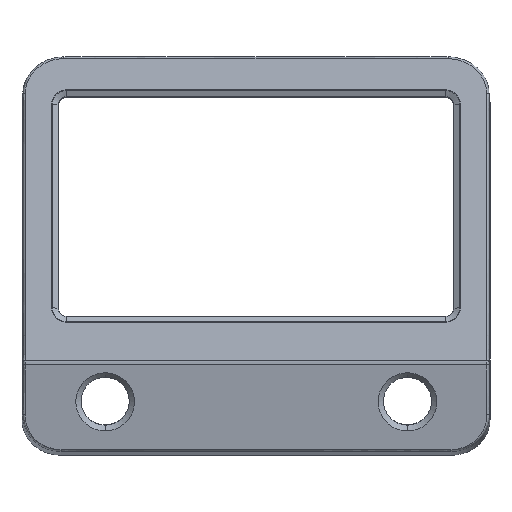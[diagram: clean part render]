
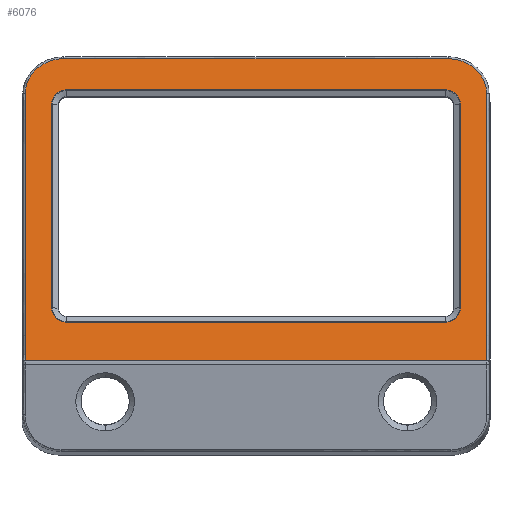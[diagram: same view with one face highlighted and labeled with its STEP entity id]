
A CAD part, front view. The second image highlights one B-rep face of the part: STEP entity #6076.
In plain terms, the highlighted planar face has unit normal (0, -0.985, 0.174).
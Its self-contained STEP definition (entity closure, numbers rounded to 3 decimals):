
#1405=CARTESIAN_POINT('',(-88.466,-83.319,
486.353));
#1511=DIRECTION('',(1.,0.,0.));
#1512=VECTOR('',#1511,176.931);
#1513=CARTESIAN_POINT('',(-88.466,-83.319,
486.353));
#1514=LINE('',#1513,#1512);
#1525=DIRECTION('',(0.,0.174,0.985));
#1526=VECTOR('',#1525,104.208);
#1527=CARTESIAN_POINT('',(-88.466,-83.319,
486.353));
#1528=LINE('',#1527,#1526);
#1529=CARTESIAN_POINT('',(-88.466,-65.224,
588.978));
#1530=CARTESIAN_POINT('',(-88.466,-65.079,
589.798));
#1531=CARTESIAN_POINT('',(-88.291,-64.788,
591.448));
#1532=CARTESIAN_POINT('',(-87.526,-64.364,
593.856));
#1533=CARTESIAN_POINT('',(-86.257,-63.963,
596.126));
#1534=CARTESIAN_POINT('',(-84.484,-63.602,
598.173));
#1535=CARTESIAN_POINT('',(-82.263,-63.296,
599.913));
#1536=CARTESIAN_POINT('',(-79.65,-63.062,
601.238));
#1537=CARTESIAN_POINT('',(-76.758,-62.916,
602.067));
#1538=CARTESIAN_POINT('',(-74.734,-62.882,
602.26));
#1539=CARTESIAN_POINT('',(-73.722,-62.882,
602.26));
#1541=DIRECTION('',(1.,0.,0.));
#1542=VECTOR('',#1541,147.444);
#1543=CARTESIAN_POINT('',(-73.722,-62.882,
602.26));
#1544=LINE('',#1543,#1542);
#1545=CARTESIAN_POINT('',(73.722,-62.882,602.26));
#1546=CARTESIAN_POINT('',(74.727,-62.882,602.26));
#1547=CARTESIAN_POINT('',(76.732,-62.915,602.07));
#1548=CARTESIAN_POINT('',(79.61,-63.059,601.253));
#1549=CARTESIAN_POINT('',(82.221,-63.291,599.939));
#1550=CARTESIAN_POINT('',(84.453,-63.597,598.203));
#1551=CARTESIAN_POINT('',(86.236,-63.958,596.156));
#1552=CARTESIAN_POINT('',(87.518,-64.36,593.878));
#1553=CARTESIAN_POINT('',(88.29,-64.786,591.46));
#1554=CARTESIAN_POINT('',(88.466,-65.079,589.799));
#1555=CARTESIAN_POINT('',(88.466,-65.224,588.978));
#1557=DIRECTION('',(0.,-0.174,-0.985));
#1558=VECTOR('',#1557,104.208);
#1559=CARTESIAN_POINT('',(88.466,-65.224,588.978));
#1560=LINE('',#1559,#1558);
#1561=CARTESIAN_POINT('',(-72.75,-65.962,584.793));
#1562=DIRECTION('',(0.,-0.985,0.174));
#1563=DIRECTION('',(0.,0.174,0.985));
#1564=AXIS2_PLACEMENT_3D('',#1561,#1562,#1563);
#1566=CARTESIAN_POINT('',(-72.75,-79.723,506.747));
#1567=DIRECTION('',(0.,-0.985,0.174));
#1568=DIRECTION('',(-1.,0.,0.));
#1569=AXIS2_PLACEMENT_3D('',#1566,#1567,#1568);
#1571=CARTESIAN_POINT('',(72.75,-79.723,506.747));
#1572=DIRECTION('',(0.,-0.985,0.174));
#1573=DIRECTION('',(0.,-0.174,-0.985));
#1574=AXIS2_PLACEMENT_3D('',#1571,#1572,#1573);
#1576=CARTESIAN_POINT('',(72.75,-65.962,584.793));
#1577=DIRECTION('',(0.,-0.985,0.174));
#1578=DIRECTION('',(1.,0.,0.));
#1579=AXIS2_PLACEMENT_3D('',#1576,#1577,#1578);
#1581=CARTESIAN_POINT('',(-88.466,-65.224,
588.978));
#1673=DIRECTION('',(1.,0.,0.));
#1674=VECTOR('',#1673,145.5);
#1675=CARTESIAN_POINT('',(-72.75,-64.982,
590.346));
#1676=LINE('',#1675,#1674);
#1696=DIRECTION('',(0.,-0.174,-0.985));
#1697=VECTOR('',#1696,79.25);
#1698=CARTESIAN_POINT('',(78.388,-65.962,584.793));
#1699=LINE('',#1698,#1697);
#1719=DIRECTION('',(-1.,0.,0.));
#1720=VECTOR('',#1719,145.5);
#1721=CARTESIAN_POINT('',(72.75,-80.702,501.194));
#1722=LINE('',#1721,#1720);
#1742=DIRECTION('',(0.,0.174,0.985));
#1743=VECTOR('',#1742,79.25);
#1744=CARTESIAN_POINT('',(-78.388,-79.723,
506.747));
#1745=LINE('',#1744,#1743);
#3405=VERTEX_POINT('',#1405);
#3406=VERTEX_POINT('',#1581);
#3425=CARTESIAN_POINT('',(88.466,-83.319,486.353));
#3426=VERTEX_POINT('',#3425);
#3427=VERTEX_POINT('',#1539);
#3428=CARTESIAN_POINT('',(73.722,-62.882,602.26));
#3429=VERTEX_POINT('',#3428);
#3430=VERTEX_POINT('',#1555);
#3431=CARTESIAN_POINT('',(-72.75,-64.982,
590.346));
#3432=CARTESIAN_POINT('',(72.75,-64.982,590.346));
#3433=VERTEX_POINT('',#3431);
#3434=VERTEX_POINT('',#3432);
#3435=CARTESIAN_POINT('',(-78.388,-65.962,
584.793));
#3436=VERTEX_POINT('',#3435);
#3437=CARTESIAN_POINT('',(-78.388,-79.723,
506.747));
#3438=VERTEX_POINT('',#3437);
#3439=CARTESIAN_POINT('',(-72.75,-80.702,
501.194));
#3440=VERTEX_POINT('',#3439);
#3441=CARTESIAN_POINT('',(72.75,-80.702,501.194));
#3442=VERTEX_POINT('',#3441);
#3443=CARTESIAN_POINT('',(78.388,-79.723,506.747));
#3444=VERTEX_POINT('',#3443);
#3445=CARTESIAN_POINT('',(78.388,-65.962,584.793));
#3446=VERTEX_POINT('',#3445);
#6041=CARTESIAN_POINT('',(90.,-73.038,544.662));
#6042=DIRECTION('',(0.,-0.985,0.174));
#6043=DIRECTION('',(0.,-0.174,-0.985));
#6044=AXIS2_PLACEMENT_3D('',#6041,#6042,#6043);
#6045=PLANE('',#6044);
#6046=ORIENTED_EDGE('',*,*,#6034,.F.);
#6047=ORIENTED_EDGE('',*,*,#5861,.T.);
#6049=ORIENTED_EDGE('',*,*,#6048,.T.);
#6051=ORIENTED_EDGE('',*,*,#6050,.T.);
#6053=ORIENTED_EDGE('',*,*,#6052,.T.);
#6055=ORIENTED_EDGE('',*,*,#6054,.T.);
#6056=EDGE_LOOP('',(#6046,#6047,#6049,#6051,#6053,#6055));
#6057=FACE_OUTER_BOUND('',#6056,.F.);
#6059=ORIENTED_EDGE('',*,*,#6058,.F.);
#6061=ORIENTED_EDGE('',*,*,#6060,.T.);
#6063=ORIENTED_EDGE('',*,*,#6062,.F.);
#6065=ORIENTED_EDGE('',*,*,#6064,.T.);
#6067=ORIENTED_EDGE('',*,*,#6066,.F.);
#6069=ORIENTED_EDGE('',*,*,#6068,.T.);
#6071=ORIENTED_EDGE('',*,*,#6070,.F.);
#6073=ORIENTED_EDGE('',*,*,#6072,.T.);
#6074=EDGE_LOOP('',(#6059,#6061,#6063,#6065,#6067,#6069,#6071,#6073));
#6075=FACE_BOUND('',#6074,.F.);
#6076=ADVANCED_FACE('',(#6057,#6075),#6045,.T.);
#1540=B_SPLINE_CURVE_WITH_KNOTS('',3,(#1529,#1530,#1531,#1532,#1533,#1534,#1535,
#1536,#1537,#1538,#1539),.UNSPECIFIED.,.F.,.F.,(4,1,1,1,1,1,1,1,4),(0.,
0.113,0.228,0.346,0.468,
0.596,0.728,0.863,1.),.UNSPECIFIED.);
#1556=B_SPLINE_CURVE_WITH_KNOTS('',3,(#1545,#1546,#1547,#1548,#1549,#1550,#1551,
#1552,#1553,#1554,#1555),.UNSPECIFIED.,.F.,.F.,(4,1,1,1,1,1,1,1,4),(0.,
0.136,0.27,0.402,0.53,
0.652,0.771,0.887,1.),.UNSPECIFIED.);
#1565=CIRCLE('',#1564,5.638);
#1570=CIRCLE('',#1569,5.638);
#1575=CIRCLE('',#1574,5.638);
#1580=CIRCLE('',#1579,5.638);
#5861=EDGE_CURVE('',#3405,#3406,#1528,.T.);
#6034=EDGE_CURVE('',#3405,#3426,#1514,.T.);
#6048=EDGE_CURVE('',#3406,#3427,#1540,.T.);
#6050=EDGE_CURVE('',#3427,#3429,#1544,.T.);
#6052=EDGE_CURVE('',#3429,#3430,#1556,.T.);
#6054=EDGE_CURVE('',#3430,#3426,#1560,.T.);
#6058=EDGE_CURVE('',#3433,#3434,#1676,.T.);
#6060=EDGE_CURVE('',#3433,#3436,#1565,.T.);
#6062=EDGE_CURVE('',#3438,#3436,#1745,.T.);
#6064=EDGE_CURVE('',#3438,#3440,#1570,.T.);
#6066=EDGE_CURVE('',#3442,#3440,#1722,.T.);
#6068=EDGE_CURVE('',#3442,#3444,#1575,.T.);
#6070=EDGE_CURVE('',#3446,#3444,#1699,.T.);
#6072=EDGE_CURVE('',#3446,#3434,#1580,.T.);
